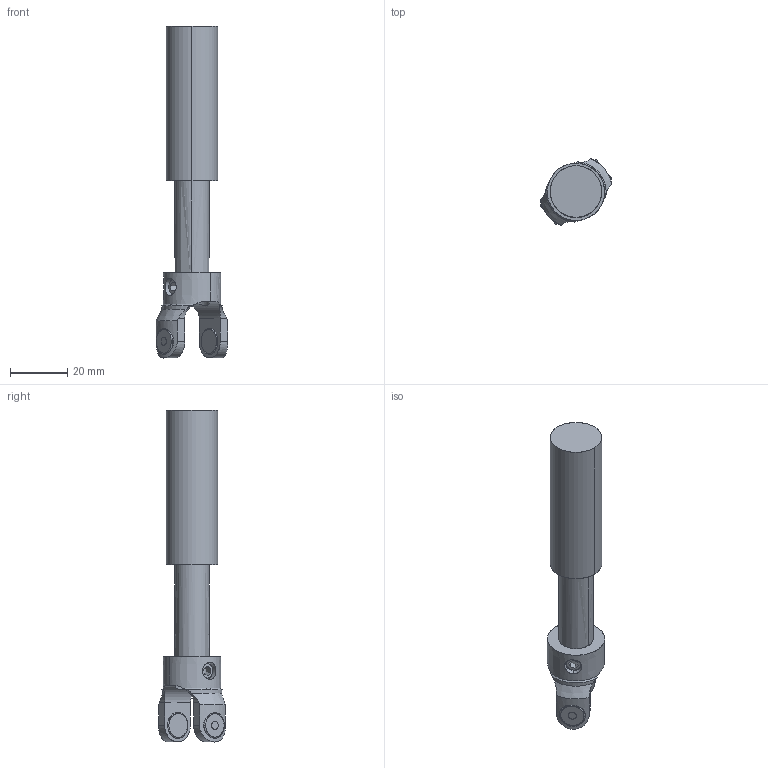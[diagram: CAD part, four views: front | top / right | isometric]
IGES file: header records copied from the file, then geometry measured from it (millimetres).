
Start section: SolidWorks IGES file using analytic representation for surfaces
Global section: file name: C:\Users\SELUHAA\Desktop\Work items\545792\IGES\IRB360_X-800-STD-4D_rev03_IGES_J\IRB360_X-800-STD-4D_rev03_U_CAD.IGS; native system: SolidWorks 2022; preprocessor: SolidWorks 2022; author: SELUHAA; date: 231128.125441; units: millimetre
Bounding box: 24.96 x 23.32 x 115.8 mm (x, y, z)
Surface area: 8757.2 mm2 (no closed solid volume)
Topology: 0 solids, 0 shells, 97 faces, 1673 edges, 1670 vertices
Faces by surface type: revolution 54, bspline 43
